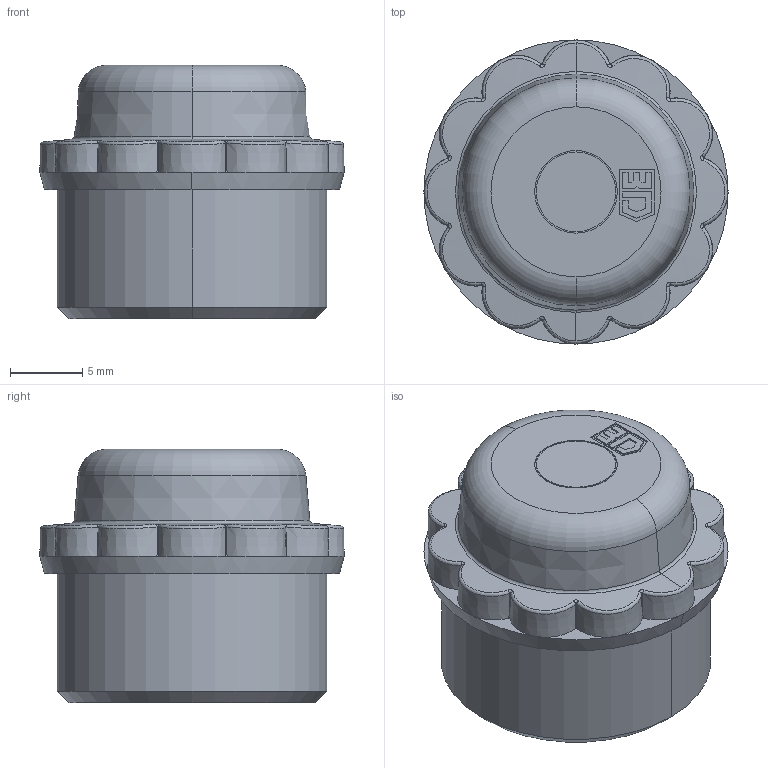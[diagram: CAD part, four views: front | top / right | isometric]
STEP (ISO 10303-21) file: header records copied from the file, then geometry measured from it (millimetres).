
FILE_DESCRIPTION (( 'STEP AP203' ), '1' );
FILE_NAME ('111 GG.STEP', '2007-01-04T07:46:24', ( ' ' ), ( '' ), 'SwSTEP 2.0', 'SolidWorks 2005278', '' );
FILE_SCHEMA (( 'CONFIG_CONTROL_DESIGN' ));
Length unit declared in the file: millimetre
Products named in the file (1): 111 GG
Bounding box: 21 x 21 x 17.5 mm (x, y, z)
Volume: 1970.3 mm3; surface area: 2303.3 mm2
Topology: 1 solids, 1 shells, 135 faces, 326 edges, 201 vertices
Faces by surface type: plane 56, bspline 36, cone 25, torus 10, cylinder 8
Entity records: 19316 total; most frequent: CARTESIAN_POINT 16292, ORIENTED_EDGE 652, DIRECTION 547, EDGE_CURVE 326, AXIS2_PLACEMENT_3D 212, VERTEX_POINT 201, EDGE_LOOP 143, FACE_OUTER_BOUND 135
